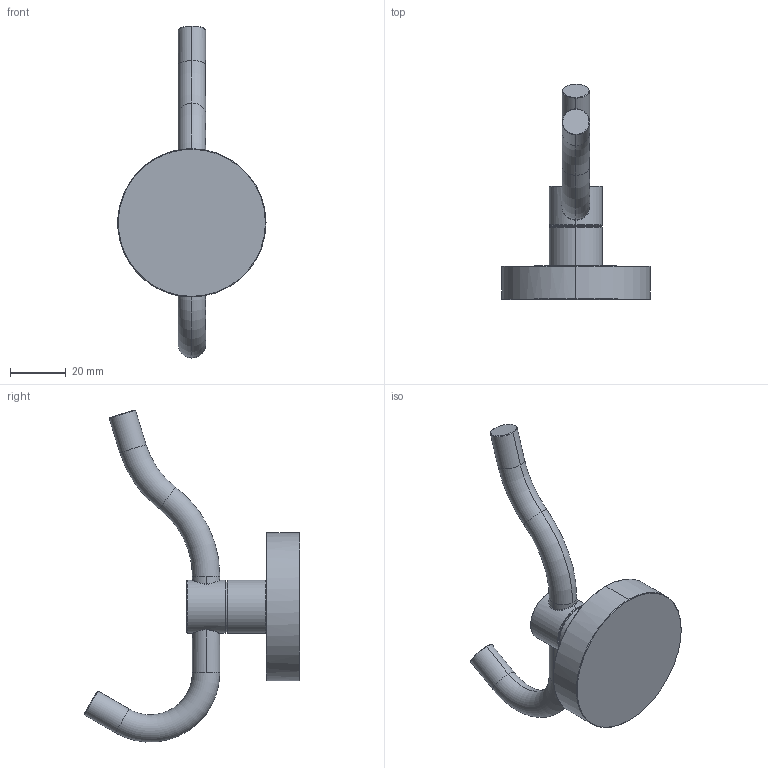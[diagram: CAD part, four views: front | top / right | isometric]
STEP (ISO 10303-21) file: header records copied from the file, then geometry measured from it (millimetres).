
FILE_DESCRIPTION(('THIS FILE CONTAINS SOME STEP INSTANCES'),'1');
FILE_NAME('har_004.stp','2015-11-25T10:03:43',('UNDEFINED'),('UNDEFINED'),'T-FLEX CAD STEP converter','T-FLEX CAD','');
FILE_SCHEMA(('CONFIG_CONTROL_DESIGN'));
Length unit declared in the file: metre
Products named in the file (1): 3D 鐨飹懤艜_1
Bounding box: 52.93 x 77.11 x 118.71 mm (x, y, z)
Volume: 44958.6 mm3; surface area: 12361.1 mm2
Topology: 1 solids, 1 shells, 49 faces, 106 edges, 62 vertices
Faces by surface type: cone 16, cylinder 16, plane 7, torus 6, bspline 4
Entity records: 3353 total; most frequent: CARTESIAN_POINT 2473, ORIENTED_EDGE 212, DIRECTION 138, EDGE_CURVE 106, VERTEX_POINT 62, AXIS2_PLACEMENT_3D 53, EDGE_LOOP 52, ADVANCED_FACE 49
